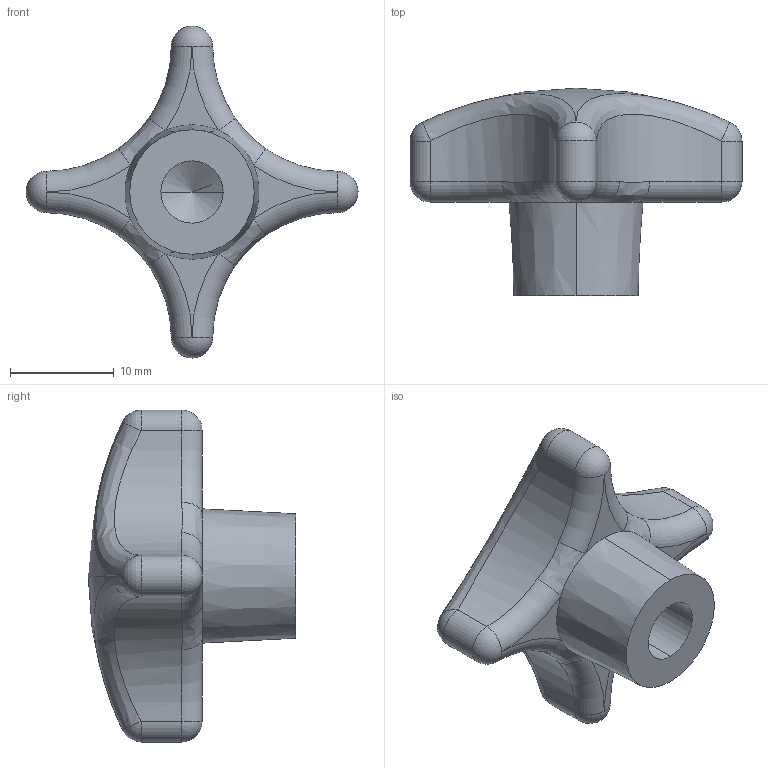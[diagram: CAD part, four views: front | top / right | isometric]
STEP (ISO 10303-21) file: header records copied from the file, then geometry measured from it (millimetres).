
FILE_DESCRIPTION (( 'STEP AP203' ), '1' );
FILE_NAME ('7000.W232.step', '2010-01-29T17:36:07', ( 'Wixroyd' ), ( 'Wixroyd' ), 'SwSTEP 2.0', 'SolidWorks 2009', '' );
FILE_SCHEMA (( 'CONFIG_CONTROL_DESIGN' ));
Length unit declared in the file: millimetre
Products named in the file (1): 7000.W232
Bounding box: 32 x 20 x 32 mm (x, y, z)
Volume: 4044.1 mm3; surface area: 2096.4 mm2
Topology: 1 solids, 1 shells, 46 faces, 103 edges, 54 vertices
Faces by surface type: cylinder 11, sphere 10, torus 8, bspline 8, plane 5, cone 4
Entity records: 4248 total; most frequent: CARTESIAN_POINT 3182, DIRECTION 233, ORIENTED_EDGE 194, AXIS2_PLACEMENT_3D 109, EDGE_CURVE 97, CIRCLE 70, VERTEX_POINT 54, EDGE_LOOP 47
